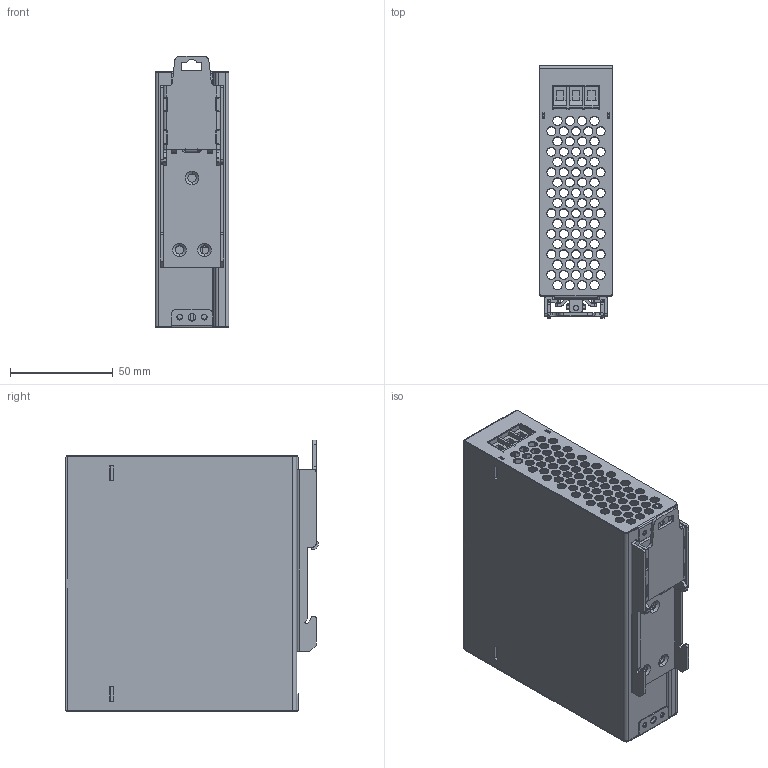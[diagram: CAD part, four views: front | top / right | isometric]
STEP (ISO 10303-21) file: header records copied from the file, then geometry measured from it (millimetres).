
FILE_DESCRIPTION (( 'STEP AP214' ), '1' );
FILE_NAME ('120W开关电源圆孔20240407.STEP', '2024-04-08T01:00:15', ( '微软用户' ), ( '微软中国' ), 'SwSTEP 2.0', 'SolidWorks 2020', '' );
FILE_SCHEMA (( 'AUTOMOTIVE_DESIGN' ));
Length unit declared in the file: millimetre
Products named in the file (10): 縐裔2024.prt.stp; 縐諶2024.prt.stp; 120W-A啣20240407; 120W埴謂厙欶20240407; 120W羲壽萇埭埴謂20240407; 120W-B啣20240407; 楷嫖; 苤縐諶; 3弇傷赽; 4弇傷赽
Assembly tree (9 placements, depth 3):
  120W羲壽萇埭埴謂20240407
    120W-A啣20240407
    120W-B啣20240407
    120W埴謂厙欶20240407
    3弇傷赽
    4弇傷赽
    楷嫖
    苤縐諶
      縐諶2024.prt.stp
      縐裔2024.prt.stp
Bounding box: 36 x 122.9 x 132.51 mm (x, y, z)
Volume: 74022.1 mm3; surface area: 110444.4 mm2
Topology: 8 solids, 8 shells, 1525 faces, 4332 edges, 2811 vertices
Faces by surface type: plane 760, cylinder 739, bspline 16, cone 6, sphere 2, torus 2
Entity records: 51272 total; most frequent: CARTESIAN_POINT 9189, DIRECTION 8828, ORIENTED_EDGE 8656, EDGE_CURVE 4328, AXIS2_PLACEMENT_3D 3050, VERTEX_POINT 2809, LINE 2728, VECTOR 2728
